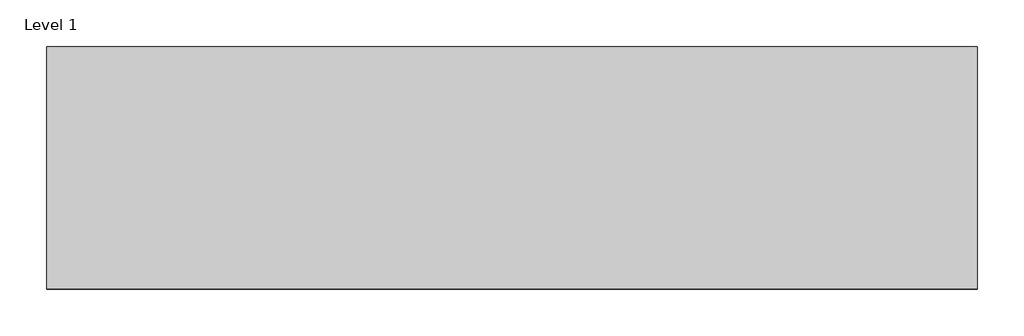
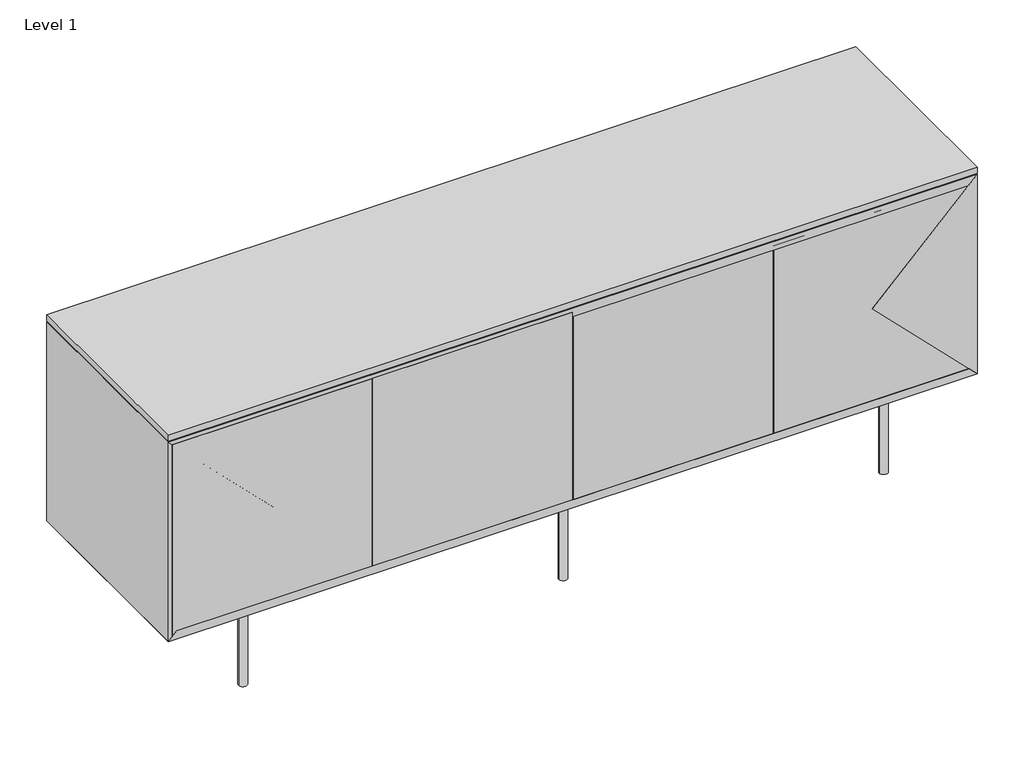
# One storey: 1 proxy.
"""IFC4 building model written with IfcOpenShell, lengths in millimetres."""

from ifc_helpers import new_model, si_unit, origin, place, context, project, spatial, transform, mapped, element, save
from components import generic_models_216b7bfc

model = new_model("IFC4")

# Units and contexts
model_context = context("Model", 3, world=origin())
ifc_project = project(units=[si_unit("LENGTHUNIT", "METRE", prefix="MILLI")], contexts=[model_context])

# Site, building, storey
site = spatial("IfcSite", under=ifc_project)
building = spatial("IfcBuilding", under=site)
storey = spatial("IfcBuildingStorey", under=building, Name="Level 1", Elevation=0.0)

# Proxy
placement = place(None, origin())
generic_models_shape = generic_models_216b7bfc(model_context)
element("IfcBuildingElementProxy", 1, Name="PARAGON^CREDENZA 4_35x96 4 DOORS W TOP-PARTS SOLID", ObjectType="PARAGON^CREDENZA 4_35x96 4 DOORS W TOP-PARTS SOLID", at=placement, inside=storey, context=model_context, shape_type="MappedRepresentation", body=[
    mapped(generic_models_shape, transform((0.0, 0.0, 254.0), x_axis=(1.0, 0.0, 0.0), y_axis=(0.0, 0.0, 1.0), z_axis=(0.0, -1.0, 0.0))),
])

save(model, "model.ifc")
